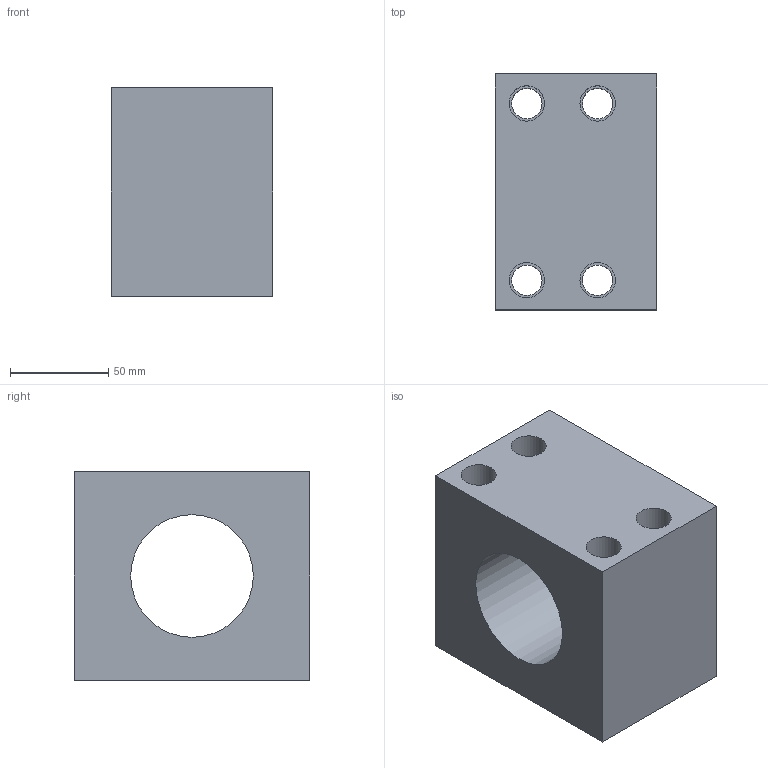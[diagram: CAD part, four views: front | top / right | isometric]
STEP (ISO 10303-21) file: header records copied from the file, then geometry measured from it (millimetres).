
FILE_DESCRIPTION(/* description */ (''),/* implementation_level */ '2;1');
FILE_NAME(/* name */ 'NH40B.stp',/* time_stamp */ '2017-08-19T10:25:43+08:00',/* author */ (''),/* organization */ (''),/* preprocessor_version */ 'ST-DEVELOPER v15',/* originating_system */ 'SIEMENS PLM Software NX 9.0',/* authorisation */ '');
FILE_SCHEMA (('CONFIG_CONTROL_DESIGN'));
Length unit declared in the file: millimetre
Products named in the file (1): NH40B
Bounding box: 82 x 120 x 106 mm (x, y, z)
Volume: 677131.7 mm3; surface area: 97662.9 mm2
Topology: 1 solids, 1 shells, 39 faces, 91 edges, 62 vertices
Faces by surface type: cylinder 19, plane 14, cone 6
Full cylindrical faces by diameter (mm): 8 x6, 15.5 x4, 18 x4, 25 x4, 62.4 x1
Entity records: 994 total; most frequent: DIRECTION 168, CARTESIAN_POINT 142, ORIENTED_EDGE 100, FACE_BOUND 86, EDGE_LOOP 82, AXIS2_PLACEMENT_3D 78, VERTEX_POINT 52, EDGE_CURVE 50
